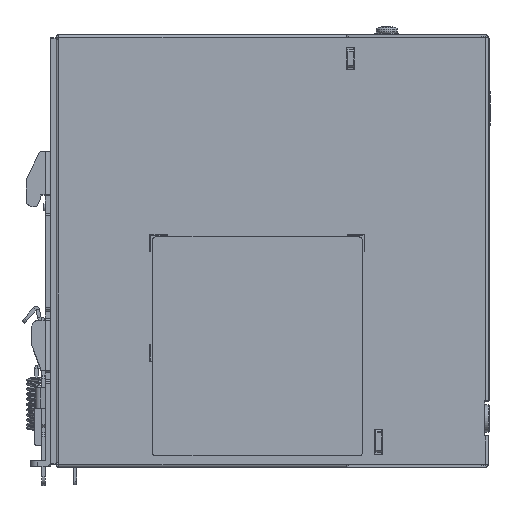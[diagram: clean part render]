
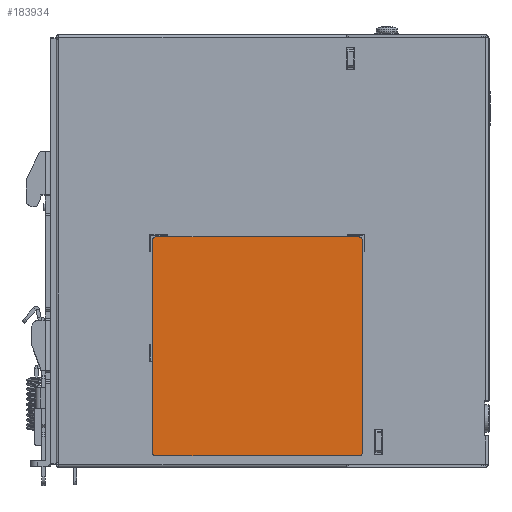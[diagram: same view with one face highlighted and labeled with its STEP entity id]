
A CAD part, top view. The second image highlights one B-rep face of the part: STEP entity #183934.
In plain terms, the highlighted planar face has unit normal (0, 0, 1).
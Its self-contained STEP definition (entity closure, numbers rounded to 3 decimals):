
#72946=CARTESIAN_POINT('',(30.,3.,44.25));
#72947=DIRECTION('',(0.,0.,-1.));
#72948=DIRECTION('',(-1.,0.,0.));
#72949=AXIS2_PLACEMENT_3D('',#72946,#72947,#72948);
#72951=DIRECTION('',(1.,0.,0.));
#72952=VECTOR('',#72951,58.);
#72953=CARTESIAN_POINT('',(30.,4.,44.25));
#72954=LINE('',#72953,#72952);
#72955=CARTESIAN_POINT('',(88.,3.,44.25));
#72956=DIRECTION('',(0.,0.,-1.));
#72957=DIRECTION('',(0.,1.,0.));
#72958=AXIS2_PLACEMENT_3D('',#72955,#72956,#72957);
#72960=DIRECTION('',(0.,-1.,0.));
#72961=VECTOR('',#72960,60.6);
#72962=CARTESIAN_POINT('',(89.,3.,44.25));
#72963=LINE('',#72962,#72961);
#72964=CARTESIAN_POINT('',(88.,-57.6,44.25));
#72965=DIRECTION('',(0.,0.,-1.));
#72966=DIRECTION('',(1.,0.,0.));
#72967=AXIS2_PLACEMENT_3D('',#72964,#72965,#72966);
#72969=DIRECTION('',(-1.,0.,0.));
#72970=VECTOR('',#72969,58.);
#72971=CARTESIAN_POINT('',(88.,-58.6,44.25));
#72972=LINE('',#72971,#72970);
#72973=CARTESIAN_POINT('',(30.,-57.6,44.25));
#72974=DIRECTION('',(0.,0.,-1.));
#72975=DIRECTION('',(0.,-1.,0.));
#72976=AXIS2_PLACEMENT_3D('',#72973,#72974,#72975);
#72978=DIRECTION('',(0.,1.,0.));
#72979=VECTOR('',#72978,60.6);
#72980=CARTESIAN_POINT('',(29.,-57.6,44.25));
#72981=LINE('',#72980,#72979);
#88015=CARTESIAN_POINT('',(29.,3.,44.25));
#88016=CARTESIAN_POINT('',(30.,4.,44.25));
#88017=VERTEX_POINT('',#88015);
#88018=VERTEX_POINT('',#88016);
#88019=CARTESIAN_POINT('',(88.,4.,44.25));
#88020=VERTEX_POINT('',#88019);
#88021=CARTESIAN_POINT('',(89.,3.,44.25));
#88022=VERTEX_POINT('',#88021);
#88023=CARTESIAN_POINT('',(89.,-57.6,44.25));
#88024=VERTEX_POINT('',#88023);
#88025=CARTESIAN_POINT('',(88.,-58.6,44.25));
#88026=VERTEX_POINT('',#88025);
#88027=CARTESIAN_POINT('',(30.,-58.6,44.25));
#88028=VERTEX_POINT('',#88027);
#88029=CARTESIAN_POINT('',(29.,-57.6,44.25));
#88030=VERTEX_POINT('',#88029);
#183919=CARTESIAN_POINT('',(58.059,-27.3,44.25));
#183920=DIRECTION('',(0.,0.,1.));
#183921=DIRECTION('',(1.,0.,0.));
#183922=AXIS2_PLACEMENT_3D('',#183919,#183920,#183921);
#183923=PLANE('',#183922);
#183924=ORIENTED_EDGE('',*,*,#183812,.T.);
#183925=ORIENTED_EDGE('',*,*,#183827,.T.);
#183926=ORIENTED_EDGE('',*,*,#183841,.T.);
#183927=ORIENTED_EDGE('',*,*,#183855,.T.);
#183928=ORIENTED_EDGE('',*,*,#183869,.T.);
#183929=ORIENTED_EDGE('',*,*,#183883,.T.);
#183930=ORIENTED_EDGE('',*,*,#183897,.T.);
#183931=ORIENTED_EDGE('',*,*,#183910,.T.);
#183932=EDGE_LOOP('',(#183924,#183925,#183926,#183927,#183928,#183929,#183930,
#183931));
#183933=FACE_OUTER_BOUND('',#183932,.F.);
#183934=ADVANCED_FACE('',(#183933),#183923,.T.);
#72950=CIRCLE('',#72949,1.);
#72959=CIRCLE('',#72958,1.);
#72968=CIRCLE('',#72967,1.);
#72977=CIRCLE('',#72976,1.);
#183812=EDGE_CURVE('',#88017,#88018,#72950,.T.);
#183827=EDGE_CURVE('',#88018,#88020,#72954,.T.);
#183841=EDGE_CURVE('',#88020,#88022,#72959,.T.);
#183855=EDGE_CURVE('',#88022,#88024,#72963,.T.);
#183869=EDGE_CURVE('',#88024,#88026,#72968,.T.);
#183883=EDGE_CURVE('',#88026,#88028,#72972,.T.);
#183897=EDGE_CURVE('',#88028,#88030,#72977,.T.);
#183910=EDGE_CURVE('',#88030,#88017,#72981,.T.);
